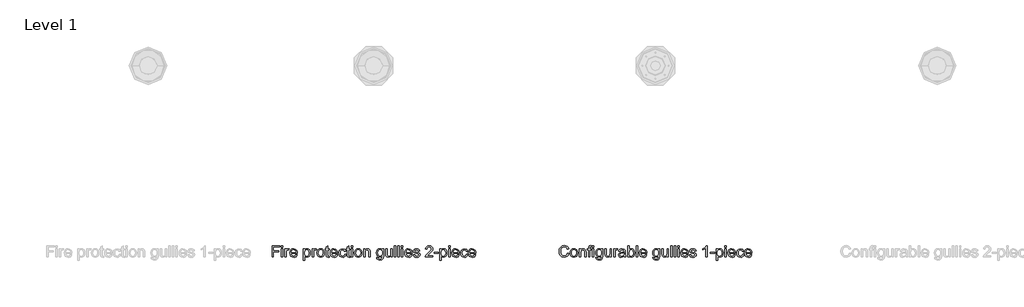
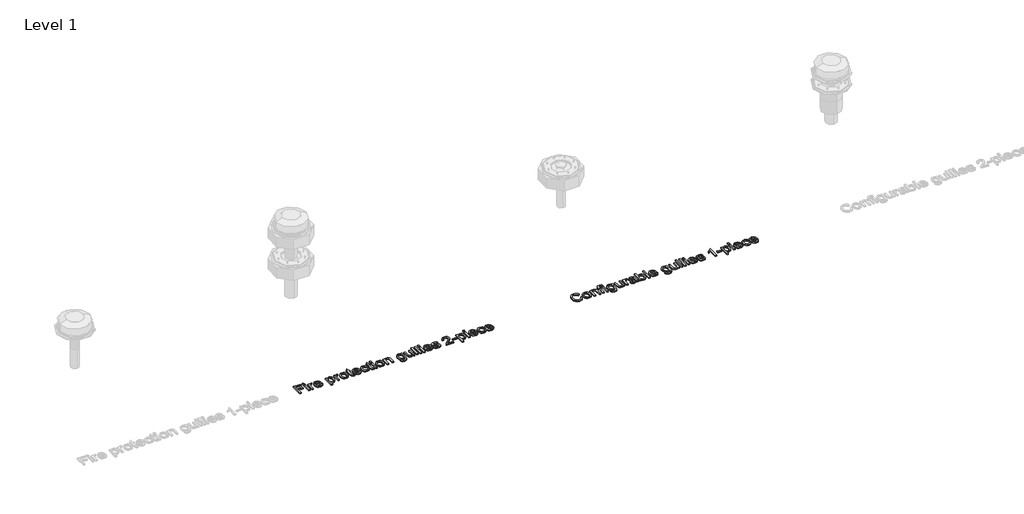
# One storey, part 3 of 4: 2 proxies.
"""IFC4 building model written with IfcOpenShell, lengths in millimetres."""

from ifc_helpers import new_model, si_unit, origin, origin_with_axes, place, context, project, spatial, polyline, outline, extrude, element, save

model = new_model("IFC4")

# Units and contexts
model_context = context("Model", 3, world=origin())
ifc_project = project(units=[si_unit("LENGTHUNIT", "METRE", prefix="MILLI")], contexts=[model_context])

# Site, building, storey
site = spatial("IfcSite", under=ifc_project)
building = spatial("IfcBuilding", under=site)
storey = spatial("IfcBuildingStorey", under=building, Name="Level 1", Elevation=0.0)

# Proxies
placement = place(None, origin())
element("IfcBuildingElementProxy", 1, Name="100mm ACO", ObjectType="100mm ACO", at=placement, inside=storey, context=model_context, shape_type="SweptSolid", body=[
    extrude(outline(polyline([(6665.7407407, -611.1111111), (6612.037037, -611.1111111), (6612.037037, -642.5925926), (6658.3333333, -642.5925926), (6658.3333333, -653.7037037), (6612.037037, -653.7037037), (6612.037037, -700.0), (6599.0740741, -700.0), (6599.0740741, -600.0), (6665.7407407, -600.0), (6665.7407407, -611.1111111)])), origin_with_axes(), (0.0, 0.0, 1.0), 10.0),
    extrude(outline(polyline([(6695.3703704, -700.0), (6682.4074074, -700.0), (6682.4074074, -627.7777778), (6695.3703704, -627.7777778), (6695.3703704, -700.0)])), origin_with_axes(), (0.0, 0.0, 1.0), 10.0),
    extrude(outline(polyline([(6695.3703704, -612.962963), (6682.4074074, -612.962963), (6682.4074074, -600.0), (6695.3703704, -600.0), (6695.3703704, -612.962963)])), origin_with_axes(), (0.0, 0.0, 1.0), 10.0),
    extrude(outline(polyline([(6752.7777778, -628.7615741), (6748.7268519, -637.037037), (6740.2199074, -635.1851852), (6734.4256366, -636.8127894), (6730.2372685, -641.6956019), (6726.8518519, -659.9247685), (6726.8518519, -700.0), (6713.8888889, -700.0), (6713.8888889, -627.7777778), (6725.0, -627.7777778), (6725.0, -638.4837963), (6731.9299769, -629.0653935), (6740.3645833, -625.9259259), (6752.7777778, -628.7615741)])), origin_with_axes(), (0.0, 0.0, 1.0), 10.0),
    extrude(outline(polyline([(6823.1481481, -666.6666667), (6769.4444444, -666.6666667), (6771.5169271, -677.7922454), (6776.2297454, -685.9375), (6783.0114294, -690.9288194), (6791.2905093, -692.5925926), (6802.9658565, -688.9033565), (6810.1851852, -677.7777778), (6823.1481481, -679.2824074), (6818.7717014, -688.9033565), (6811.8344907, -696.0069444), (6802.5896991, -700.390625), (6791.2905093, -701.8518519), (6776.703559, -699.3453414), (6765.697338, -691.8258102), (6758.7854456, -679.9660012), (6756.4814815, -664.4386574), (6758.7022569, -648.900463), (6765.3645833, -636.6030093), (6776.0633681, -628.5951968), (6790.3935185, -625.9259259), (6805.6134259, -629.3836806), (6818.041088, -641.1603009), (6821.8713831, -651.6963252), (6823.1481481, -666.6666667)]), holes=[polyline([(6810.1851852, -657.4074074), (6808.1018519, -647.2511574), (6803.3564815, -640.3935185), (6790.0752315, -635.1851852), (6782.2193287, -636.7332176), (6775.8969907, -641.3773148), (6769.4444444, -657.4074074), (6810.1851852, -657.4074074)])]), origin_with_axes(), (0.0, 0.0, 1.0), 10.0),
    extrude(outline(polyline([(6889.9450231, -636.4872685), (6898.401331, -628.5662616), (6910.0694444, -625.9259259), (6922.3958333, -628.515625), (6931.8287037, -636.2847222), (6937.818287, -648.2132523), (6939.8148148, -663.28125), (6937.5578704, -679.1702836), (6930.787037, -691.4207176), (6920.7320602, -699.2440683), (6908.6226852, -701.8518519), (6898.2494213, -699.7251157), (6890.162037, -693.3449074), (6889.8148148, -727.7777778), (6876.8518519, -727.7777778), (6876.8518519, -627.7777778), (6889.8148148, -627.7777778), (6889.9450231, -636.4872685)]), holes=[polyline([(6907.2048611, -692.5925926), (6914.9775752, -690.766059), (6921.2818287, -685.2864583), (6925.4593461, -676.1899595), (6926.8518519, -663.5127315), (6925.5099826, -651.4359086), (6921.484375, -642.5202546), (6915.3682002, -637.0189525), (6907.7546296, -635.1851852), (6899.8734086, -637.2287326), (6893.5329861, -643.359375), (6889.3554687, -652.7452257), (6887.962963, -664.5543981), (6889.2975984, -676.66739), (6893.3015046, -685.4600694), (6899.4466146, -690.8094618), (6907.2048611, -692.5925926)])]), origin_with_axes(), (0.0, 0.0, 1.0), 10.0),
    extrude(outline(polyline([(6993.5185185, -628.7615741), (6989.4675926, -637.037037), (6980.9606481, -635.1851852), (6975.1663773, -636.8127894), (6970.9780093, -641.6956019), (6967.5925926, -659.9247685), (6967.5925926, -700.0), (6954.6296296, -700.0), (6954.6296296, -627.7777778), (6965.7407407, -627.7777778), (6965.7407407, -638.4837963), (6972.6707176, -629.0653935), (6981.1053241, -625.9259259), (6993.5185185, -628.7615741)])), origin_with_axes(), (0.0, 0.0, 1.0), 10.0),
    extrude(outline(polyline([(7030.5266204, -625.9259259), (7043.7029803, -628.3203125), (7054.4126157, -635.5034722), (7061.5198206, -647.0992477), (7063.8888889, -662.7314815), (7061.3245081, -681.0040509), (7053.6313657, -692.9976852), (7042.7264178, -699.6383102), (7030.5266204, -701.8518519), (7017.9361979, -699.5768229), (7007.1325231, -692.7517361), (6999.6997975, -680.9859664), (6997.2222222, -663.8888889), (6999.6166088, -647.1715856), (7006.7997685, -635.3298611), (7017.5202546, -628.2769097), (7030.5266204, -625.9259259)]), holes=[polyline([(7030.5266204, -692.5925926), (7039.3337674, -690.5852141), (7045.7320602, -684.5630787), (7050.9259259, -663.4259259), (7049.4574653, -651.1429398), (7045.0520833, -642.3032407), (7038.4837963, -636.9646991), (7030.5266204, -635.1851852), (7022.4139178, -636.9900174), (7015.8998843, -642.4045139), (7011.61386, -651.3925058), (7010.1851852, -663.9178241), (7011.6391782, -676.3997396), (7016.0011574, -685.3732639), (7022.5405093, -690.7877604), (7030.5266204, -692.5925926)])]), origin_with_axes(), (0.0, 0.0, 1.0), 10.0),
    extrude(outline(polyline([(7106.4814815, -701.0127315), (7097.3958333, -701.8518519), (7085.8072917, -698.9728009), (7081.3657407, -691.6666667), (7080.5555556, -679.3402778), (7080.5555556, -637.037037), (7071.2962963, -637.037037), (7071.2962963, -627.7777778), (7080.5555556, -627.7777778), (7080.5555556, -609.4328704), (7093.5185185, -601.8518519), (7093.5185185, -627.7777778), (7104.6296296, -627.7777778), (7104.6296296, -637.037037), (7093.5185185, -637.037037), (7093.5185185, -681.9444444), (7094.5601852, -690.162037), (7099.8553241, -692.5925926), (7104.8900463, -692.5925926), (7106.4814815, -701.0127315)])), origin_with_axes(), (0.0, 0.0, 1.0), 10.0),
    extrude(outline(polyline([(7180.5555556, -666.6666667), (7126.8518519, -666.6666667), (7128.9243345, -677.7922454), (7133.6371528, -685.9375), (7140.4188368, -690.9288194), (7148.6979167, -692.5925926), (7160.3732639, -688.9033565), (7167.5925926, -677.7777778), (7180.5555556, -679.2824074), (7176.1791088, -688.9033565), (7169.2418981, -696.0069444), (7159.9971065, -700.390625), (7148.6979167, -701.8518519), (7134.1109664, -699.3453414), (7123.1047454, -691.8258102), (7116.192853, -679.9660012), (7113.8888889, -664.4386574), (7116.1096644, -648.900463), (7122.7719907, -636.6030093), (7133.4707755, -628.5951968), (7147.8009259, -625.9259259), (7163.0208333, -629.3836806), (7175.4484954, -641.1603009), (7179.2787905, -651.6963252), (7180.5555556, -666.6666667)]), holes=[polyline([(7167.5925926, -657.4074074), (7165.5092593, -647.2511574), (7160.7638889, -640.3935185), (7147.4826389, -635.1851852), (7139.6267361, -636.7332176), (7133.3043981, -641.3773148), (7126.8518519, -657.4074074), (7167.5925926, -657.4074074)])]), origin_with_axes(), (0.0, 0.0, 1.0), 10.0),
    extrude(outline(polyline([(7256.4814815, -675.5497685), (7252.4522569, -687.3553241), (7245.2835648, -695.5150463), (7235.9592014, -700.2676505), (7225.462963, -701.8518519), (7211.1472801, -699.2621528), (7200.4918981, -691.4930556), (7193.8729745, -679.4487847), (7191.6666667, -664.0335648), (7196.7013889, -641.3483796), (7209.302662, -629.3836806), (7225.2025463, -625.9259259), (7244.6614583, -631.5827546), (7251.1971933, -638.566985), (7254.6296296, -648.2060185), (7241.6666667, -650.0), (7235.7638889, -638.9033565), (7225.3472222, -635.1851852), (7216.3917824, -637.0695891), (7209.8958333, -642.7228009), (7205.9461806, -651.7541956), (7204.6296296, -663.7731481), (7205.9497975, -676.0018808), (7209.9103009, -685.083912), (7216.3592303, -690.7154225), (7225.1446759, -692.5925926), (7237.7459491, -687.962963), (7243.5185185, -674.0740741), (7256.4814815, -675.5497685)])), origin_with_axes(), (0.0, 0.0, 1.0), 10.0),
    extrude(outline(polyline([(7291.6666667, -701.0127315), (7282.5810185, -701.8518519), (7270.9924769, -698.9728009), (7266.5509259, -691.6666667), (7265.7407407, -679.3402778), (7265.7407407, -637.037037), (7256.4814815, -637.037037), (7256.4814815, -627.7777778), (7265.7407407, -627.7777778), (7265.7407407, -609.4328704), (7278.7037037, -601.8518519), (7278.7037037, -627.7777778), (7289.8148148, -627.7777778), (7289.8148148, -637.037037), (7278.7037037, -637.037037), (7278.7037037, -681.9444444), (7279.7453704, -690.162037), (7285.0405093, -692.5925926), (7290.0752315, -692.5925926), (7291.6666667, -701.0127315)])), origin_with_axes(), (0.0, 0.0, 1.0), 10.0),
    extrude(outline(polyline([(7315.7407407, -612.962963), (7302.7777778, -612.962963), (7302.7777778, -600.0), (7315.7407407, -600.0), (7315.7407407, -612.962963)])), origin_with_axes(), (0.0, 0.0, 1.0), 10.0),
    extrude(outline(polyline([(7315.7407407, -700.0), (7302.7777778, -700.0), (7302.7777778, -627.7777778), (7315.7407407, -627.7777778), (7315.7407407, -700.0)])), origin_with_axes(), (0.0, 0.0, 1.0), 10.0),
    extrude(outline(polyline([(7363.8599537, -625.9259259), (7377.0363137, -628.3203125), (7387.7459491, -635.5034722), (7394.8531539, -647.0992477), (7397.2222222, -662.7314815), (7394.6578414, -681.0040509), (7386.9646991, -692.9976852), (7376.0597512, -699.6383102), (7363.8599537, -701.8518519), (7351.2695312, -699.5768229), (7340.4658565, -692.7517361), (7333.0331308, -680.9859664), (7330.5555556, -663.8888889), (7332.9499421, -647.1715856), (7340.1331019, -635.3298611), (7350.853588, -628.2769097), (7363.8599537, -625.9259259)]), holes=[polyline([(7363.8599537, -692.5925926), (7372.6671007, -690.5852141), (7379.0653935, -684.5630787), (7384.2592593, -663.4259259), (7382.7907986, -651.1429398), (7378.3854167, -642.3032407), (7371.8171296, -636.9646991), (7363.8599537, -635.1851852), (7355.7472512, -636.9900174), (7349.2332176, -642.4045139), (7344.9471933, -651.3925058), (7343.5185185, -663.9178241), (7344.9725116, -676.3997396), (7349.3344907, -685.3732639), (7355.8738426, -690.7877604), (7363.8599537, -692.5925926)])]), origin_with_axes(), (0.0, 0.0, 1.0), 10.0),
    extrude(outline(polyline([(7471.2962963, -700.0), (7458.3333333, -700.0), (7458.3333333, -655.0347222), (7454.4704861, -639.4386574), (7443.7210648, -635.1851852), (7433.6950231, -637.9050926), (7426.9820602, -645.5729167), (7425.0, -659.5775463), (7425.0, -700.0), (7412.037037, -700.0), (7412.037037, -627.7777778), (7423.1481481, -627.7777778), (7423.1481481, -637.818287), (7433.0439815, -628.8917824), (7446.2962963, -625.9259259), (7457.6678241, -627.9803241), (7466.4641204, -634.1290509), (7470.4716435, -642.8674769), (7471.2962963, -655.4108796), (7471.2962963, -700.0)])), origin_with_axes(), (0.0, 0.0, 1.0), 10.0),
    extrude(outline(polyline([(7587.962963, -689.3518519), (7584.9103009, -711.9936343), (7574.0451389, -723.6255787), (7555.3819444, -727.7777778), (7544.1659433, -726.3708044), (7534.9971065, -722.1498843), (7528.8881655, -714.7243924), (7526.8518519, -703.7037037), (7539.8148148, -705.7581019), (7544.3865741, -715.3211806), (7555.5844907, -718.5185185), (7568.8946759, -714.8292824), (7574.0596065, -705.8449074), (7575.0, -691.2326389), (7566.2254051, -697.8081597), (7555.4108796, -700.0), (7543.0193866, -697.3885995), (7533.3333333, -689.5543981), (7527.0833333, -677.7416088), (7525.0, -663.1944444), (7526.9820602, -648.5532407), (7532.9282407, -636.5740741), (7542.3755787, -628.587963), (7554.8611111, -625.9259259), (7565.9360532, -628.3058449), (7574.7395833, -635.4456019), (7575.0, -627.7777778), (7587.962963, -627.7777778), (7587.962963, -689.3518519)]), holes=[polyline([(7557.349537, -690.7407407), (7564.5616319, -689.134838), (7570.9201389, -684.3171296), (7575.3689236, -675.7233796), (7576.8518519, -662.7893519), (7575.4376447, -651.0018808), (7571.1950231, -642.3177083), (7564.8690683, -636.968316), (7557.2048611, -635.1851852), (7549.4827836, -637.0117187), (7543.3304398, -642.4913194), (7539.3048322, -651.1465567), (7537.962963, -662.5), (7539.3699363, -675.2170139), (7543.5908565, -683.9699074), (7549.8444734, -689.0480324), (7557.349537, -690.7407407)])]), origin_with_axes(), (0.0, 0.0, 1.0), 10.0),
    extrude(outline(polyline([(7665.7407407, -700.0), (7654.6296296, -700.0), (7654.6296296, -689.4965278), (7644.3865741, -698.7630208), (7631.4236111, -701.8518519), (7617.3032407, -698.3362269), (7608.6516204, -688.6574074), (7606.4814815, -672.65625), (7606.4814815, -627.7777778), (7619.4444444, -627.7777778), (7619.4444444, -668.75), (7620.3414352, -682.8414352), (7625.0289352, -689.84375), (7634.056713, -692.5925926), (7646.802662, -687.6736111), (7651.2839988, -680.1215278), (7652.7777778, -667.3032407), (7652.7777778, -627.7777778), (7665.7407407, -627.7777778), (7665.7407407, -700.0)])), origin_with_axes(), (0.0, 0.0, 1.0), 10.0),
    extrude(outline(polyline([(7697.2222222, -700.0), (7684.2592593, -700.0), (7684.2592593, -600.0), (7697.2222222, -600.0), (7697.2222222, -700.0)])), origin_with_axes(), (0.0, 0.0, 1.0), 10.0),
    extrude(outline(polyline([(7728.7037037, -700.0), (7715.7407407, -700.0), (7715.7407407, -600.0), (7728.7037037, -600.0), (7728.7037037, -700.0)])), origin_with_axes(), (0.0, 0.0, 1.0), 10.0),
    extrude(outline(polyline([(7760.1851852, -612.962963), (7747.2222222, -612.962963), (7747.2222222, -600.0), (7760.1851852, -600.0), (7760.1851852, -612.962963)])), origin_with_axes(), (0.0, 0.0, 1.0), 10.0),
    extrude(outline(polyline([(7760.1851852, -700.0), (7747.2222222, -700.0), (7747.2222222, -627.7777778), (7760.1851852, -627.7777778), (7760.1851852, -700.0)])), origin_with_axes(), (0.0, 0.0, 1.0), 10.0),
    extrude(outline(polyline([(7841.6666667, -666.6666667), (7787.962963, -666.6666667), (7790.0354456, -677.7922454), (7794.7482639, -685.9375), (7801.5299479, -690.9288194), (7809.8090278, -692.5925926), (7821.484375, -688.9033565), (7828.7037037, -677.7777778), (7841.6666667, -679.2824074), (7837.2902199, -688.9033565), (7830.3530093, -696.0069444), (7821.1082176, -700.390625), (7809.8090278, -701.8518519), (7795.2220775, -699.3453414), (7784.2158565, -691.8258102), (7777.3039641, -679.9660012), (7775.0, -664.4386574), (7777.2207755, -648.900463), (7783.8831019, -636.6030093), (7794.5818866, -628.5951968), (7808.912037, -625.9259259), (7824.1319444, -629.3836806), (7836.5596065, -641.1603009), (7840.3899016, -651.6963252), (7841.6666667, -666.6666667)]), holes=[polyline([(7828.7037037, -657.4074074), (7826.6203704, -647.2511574), (7821.875, -640.3935185), (7808.59375, -635.1851852), (7800.7378472, -636.7332176), (7794.4155093, -641.3773148), (7787.962963, -657.4074074), (7828.7037037, -657.4074074)])]), origin_with_axes(), (0.0, 0.0, 1.0), 10.0),
    extrude(outline(polyline([(7897.2222222, -648.1481481), (7892.4334491, -638.4259259), (7881.3657407, -635.1851852), (7870.0520833, -637.962963), (7865.7407407, -646.0358796), (7868.5908565, -653.1828704), (7882.03125, -657.0601852), (7899.7540509, -661.2268519), (7908.7962963, -667.5491898), (7912.037037, -678.8773148), (7910.0260417, -687.8074363), (7903.9930556, -695.2112269), (7894.5963542, -700.1916956), (7882.494213, -701.8518519), (7870.0195312, -700.4557292), (7860.6047454, -696.2673611), (7854.2426215, -689.2939815), (7850.9259259, -679.5428241), (7863.8888889, -677.7777778), (7869.4878472, -688.9033565), (7882.494213, -692.5925926), (7894.7916667, -688.7586806), (7899.0740741, -679.4270833), (7897.1498843, -673.4519676), (7892.3466435, -670.0810185), (7878.7615741, -667.1875), (7857.8269676, -659.375), (7852.7777778, -646.7881944), (7854.6477141, -638.5018808), (7860.2575231, -631.8142361), (7869.0285012, -627.3980035), (7880.3819444, -625.9259259), (7892.3140914, -627.2135417), (7901.2586806, -631.0763889), (7907.2157118, -637.5072338), (7910.1851852, -646.4988426), (7897.2222222, -648.1481481)])), origin_with_axes(), (0.0, 0.0, 1.0), 10.0),
    extrude(outline(polyline([(8025.0, -700.0), (7958.3333333, -700.0), (7964.2939815, -684.4039352), (7986.3136574, -662.7893519), (8004.0798611, -645.4571759), (8010.0477431, -636.4293981), (8012.037037, -627.34375), (8006.6116898, -614.380787), (7992.9108796, -609.2592593), (7978.8773148, -614.3663194), (7974.609375, -620.7356771), (7973.1481481, -629.6296296), (7960.1851852, -628.2407407), (7963.3246528, -616.1385995), (7970.3703704, -607.2627315), (7980.5844907, -601.8156829), (7993.2291667, -600.0), (8006.5863715, -602.0869502), (8016.6232639, -608.3478009), (8022.905816, -617.5600405), (8025.0, -628.5011574), (8023.2494213, -638.4042245), (8017.9976852, -648.4375), (7990.5671296, -675.9548611), (7975.0, -690.7407407), (8025.0, -690.7407407), (8025.0, -700.0)])), origin_with_axes(), (0.0, 0.0, 1.0), 10.0),
    extrude(outline(polyline([(8075.0, -666.6666667), (8036.1111111, -666.6666667), (8036.1111111, -657.4074074), (8075.0, -657.4074074), (8075.0, -666.6666667)])), origin_with_axes(), (0.0, 0.0, 1.0), 10.0),
    extrude(outline(polyline([(8101.0561343, -636.4872685), (8109.5124421, -628.5662616), (8121.1805556, -625.9259259), (8133.5069444, -628.515625), (8142.9398148, -636.2847222), (8148.9293981, -648.2132523), (8150.9259259, -663.28125), (8148.6689815, -679.1702836), (8141.8981481, -691.4207176), (8131.8431713, -699.2440683), (8119.7337963, -701.8518519), (8109.3605324, -699.7251157), (8101.2731481, -693.3449074), (8100.9259259, -727.7777778), (8087.962963, -727.7777778), (8087.962963, -627.7777778), (8100.9259259, -627.7777778), (8101.0561343, -636.4872685)]), holes=[polyline([(8118.3159722, -692.5925926), (8126.0886863, -690.766059), (8132.3929398, -685.2864583), (8136.5704572, -676.1899595), (8137.962963, -663.5127315), (8136.6210937, -651.4359086), (8132.5954861, -642.5202546), (8126.4793113, -637.0189525), (8118.8657407, -635.1851852), (8110.9845197, -637.2287326), (8104.6440972, -643.359375), (8100.4665799, -652.7452257), (8099.0740741, -664.5543981), (8100.4087095, -676.66739), (8104.4126157, -685.4600694), (8110.5577257, -690.8094618), (8118.3159722, -692.5925926)])]), origin_with_axes(), (0.0, 0.0, 1.0), 10.0),
    extrude(outline(polyline([(8178.7037037, -612.962963), (8165.7407407, -612.962963), (8165.7407407, -600.0), (8178.7037037, -600.0), (8178.7037037, -612.962963)])), origin_with_axes(), (0.0, 0.0, 1.0), 10.0),
    extrude(outline(polyline([(8178.7037037, -700.0), (8165.7407407, -700.0), (8165.7407407, -627.7777778), (8178.7037037, -627.7777778), (8178.7037037, -700.0)])), origin_with_axes(), (0.0, 0.0, 1.0), 10.0),
    extrude(outline(polyline([(8260.1851852, -666.6666667), (8206.4814815, -666.6666667), (8208.5539641, -677.7922454), (8213.2667824, -685.9375), (8220.0484664, -690.9288194), (8228.3275463, -692.5925926), (8240.0028935, -688.9033565), (8247.2222222, -677.7777778), (8260.1851852, -679.2824074), (8255.8087384, -688.9033565), (8248.8715278, -696.0069444), (8239.6267361, -700.390625), (8228.3275463, -701.8518519), (8213.7405961, -699.3453414), (8202.734375, -691.8258102), (8195.8224826, -679.9660012), (8193.5185185, -664.4386574), (8195.739294, -648.900463), (8202.4016204, -636.6030093), (8213.1004051, -628.5951968), (8227.4305556, -625.9259259), (8242.650463, -629.3836806), (8255.078125, -641.1603009), (8258.9084201, -651.6963252), (8260.1851852, -666.6666667)]), holes=[polyline([(8247.2222222, -657.4074074), (8245.1388889, -647.2511574), (8240.3935185, -640.3935185), (8227.1122685, -635.1851852), (8219.2563657, -636.7332176), (8212.9340278, -641.3773148), (8206.4814815, -657.4074074), (8247.2222222, -657.4074074)])]), origin_with_axes(), (0.0, 0.0, 1.0), 10.0),
    extrude(outline(polyline([(8336.1111111, -675.5497685), (8332.0818866, -687.3553241), (8324.9131944, -695.5150463), (8315.588831, -700.2676505), (8305.0925926, -701.8518519), (8290.7769097, -699.2621528), (8280.1215278, -691.4930556), (8273.5026042, -679.4487847), (8271.2962963, -664.0335648), (8276.3310185, -641.3483796), (8288.9322917, -629.3836806), (8304.8321759, -625.9259259), (8324.291088, -631.5827546), (8330.8268229, -638.566985), (8334.2592593, -648.2060185), (8321.2962963, -650.0), (8315.3935185, -638.9033565), (8304.9768519, -635.1851852), (8296.021412, -637.0695891), (8289.525463, -642.7228009), (8285.5758102, -651.7541956), (8284.2592593, -663.7731481), (8285.5794271, -676.0018808), (8289.5399306, -685.083912), (8295.98886, -690.7154225), (8304.7743056, -692.5925926), (8317.3755787, -687.962963), (8323.1481481, -674.0740741), (8336.1111111, -675.5497685)])), origin_with_axes(), (0.0, 0.0, 1.0), 10.0),
    extrude(outline(polyline([(8406.4814815, -666.6666667), (8352.7777778, -666.6666667), (8354.8502604, -677.7922454), (8359.5630787, -685.9375), (8366.3447627, -690.9288194), (8374.6238426, -692.5925926), (8386.2991898, -688.9033565), (8393.5185185, -677.7777778), (8406.4814815, -679.2824074), (8402.1050347, -688.9033565), (8395.1678241, -696.0069444), (8385.9230324, -700.390625), (8374.6238426, -701.8518519), (8360.0368924, -699.3453414), (8349.0306713, -691.8258102), (8342.1187789, -679.9660012), (8339.8148148, -664.4386574), (8342.0355903, -648.900463), (8348.6979167, -636.6030093), (8359.3967014, -628.5951968), (8373.7268519, -625.9259259), (8388.9467593, -629.3836806), (8401.3744213, -641.1603009), (8405.2047164, -651.6963252), (8406.4814815, -666.6666667)]), holes=[polyline([(8393.5185185, -657.4074074), (8391.4351852, -647.2511574), (8386.6898148, -640.3935185), (8373.4085648, -635.1851852), (8365.552662, -636.7332176), (8359.2303241, -641.3773148), (8352.7777778, -657.4074074), (8393.5185185, -657.4074074)])]), origin_with_axes(), (0.0, 0.0, 1.0), 10.0),
])
element("IfcBuildingElementProxy", 2, Name="100mm ACO", ObjectType="100mm ACO", at=placement, inside=storey, context=model_context, shape_type="SweptSolid", body=[
    extrude(outline(polyline([(9232.4074074, -668.1712963), (9226.4937789, -682.9969618), (9217.3755787, -693.5040509), (9205.5881076, -699.7649016), (9191.6666667, -701.8518519), (9170.7609954, -697.9962384), (9156.4236111, -686.4293981), (9148.1336806, -669.4372106), (9145.3703704, -649.3055556), (9148.614728, -627.9188368), (9158.3478009, -611.7332176), (9173.1807002, -601.5444155), (9191.724537, -598.1481481), (9205.0383391, -599.9602141), (9216.2760417, -605.396412), (9224.9457465, -614.3265336), (9230.5555556, -626.6203704), (9217.5925926, -629.6296296), (9207.740162, -614.3663194), (9191.2326389, -609.2592593), (9177.0109954, -611.968316), (9166.6956019, -620.0954861), (9160.4239005, -632.7799479), (9158.3333333, -649.1608796), (9160.546875, -667.5238715), (9167.1875, -680.4832176), (9177.3871528, -688.17636), (9190.2777778, -690.7407407), (9200.8463542, -689.1239873), (9209.2303241, -684.2737269), (9215.4296875, -676.1754919), (9219.4444444, -664.8148148), (9232.4074074, -668.1712963)])), origin_with_axes(), (0.0, 0.0, 1.0), 10.0),
    extrude(outline(polyline([(9276.8229167, -625.9259259), (9289.9992766, -628.3203125), (9300.708912, -635.5034722), (9307.8161169, -647.0992477), (9310.1851852, -662.7314815), (9307.6208044, -681.0040509), (9299.927662, -692.9976852), (9289.0227141, -699.6383102), (9276.8229167, -701.8518519), (9264.2324942, -699.5768229), (9253.4288194, -692.7517361), (9245.9960937, -680.9859664), (9243.5185185, -663.8888889), (9245.9129051, -647.1715856), (9253.0960648, -635.3298611), (9263.8165509, -628.2769097), (9276.8229167, -625.9259259)]), holes=[polyline([(9276.8229167, -692.5925926), (9285.6300637, -690.5852141), (9292.0283565, -684.5630787), (9297.2222222, -663.4259259), (9295.7537616, -651.1429398), (9291.3483796, -642.3032407), (9284.7800926, -636.9646991), (9276.8229167, -635.1851852), (9268.7102141, -636.9900174), (9262.1961806, -642.4045139), (9257.9101562, -651.3925058), (9256.4814815, -663.9178241), (9257.9354745, -676.3997396), (9262.2974537, -685.3732639), (9268.8368056, -690.7877604), (9276.8229167, -692.5925926)])]), origin_with_axes(), (0.0, 0.0, 1.0), 10.0),
    extrude(outline(polyline([(9384.2592593, -700.0), (9371.2962963, -700.0), (9371.2962963, -655.0347222), (9367.4334491, -639.4386574), (9356.6840278, -635.1851852), (9346.6579861, -637.9050926), (9339.9450231, -645.5729167), (9337.962963, -659.5775463), (9337.962963, -700.0), (9325.0, -700.0), (9325.0, -627.7777778), (9336.1111111, -627.7777778), (9336.1111111, -637.818287), (9346.0069444, -628.8917824), (9359.2592593, -625.9259259), (9370.630787, -627.9803241), (9379.4270833, -634.1290509), (9383.4346065, -642.8674769), (9384.2592593, -655.4108796), (9384.2592593, -700.0)])), origin_with_axes(), (0.0, 0.0, 1.0), 10.0),
    extrude(outline(polyline([(9436.1111111, -599.1030093), (9434.5196759, -607.4074074), (9428.2118056, -607.4074074), (9421.9039352, -609.5341435), (9419.4444444, -620.0520833), (9419.4444444, -627.7777778), (9430.5555556, -627.7777778), (9430.5555556, -637.037037), (9419.4444444, -637.037037), (9419.4444444, -700.0), (9406.4814815, -700.0), (9406.4814815, -637.037037), (9395.3703704, -637.037037), (9395.3703704, -627.7777778), (9406.4814815, -627.7777778), (9406.4814815, -619.849537), (9407.4508102, -609.8668981), (9412.5578704, -601.7650463), (9425.318287, -598.1481481), (9436.1111111, -599.1030093)])), origin_with_axes(), (0.0, 0.0, 1.0), 10.0),
    extrude(outline(polyline([(9454.6296296, -700.0), (9441.6666667, -700.0), (9441.6666667, -627.7777778), (9454.6296296, -627.7777778), (9454.6296296, -700.0)])), origin_with_axes(), (0.0, 0.0, 1.0), 10.0),
    extrude(outline(polyline([(9454.6296296, -612.962963), (9441.6666667, -612.962963), (9441.6666667, -600.0), (9454.6296296, -600.0), (9454.6296296, -612.962963)])), origin_with_axes(), (0.0, 0.0, 1.0), 10.0),
    extrude(outline(polyline([(9532.4074074, -689.3518519), (9529.3547454, -711.9936343), (9518.4895833, -723.6255787), (9499.8263889, -727.7777778), (9488.6103877, -726.3708044), (9479.4415509, -722.1498843), (9473.33261, -714.7243924), (9471.2962963, -703.7037037), (9484.2592593, -705.7581019), (9488.8310185, -715.3211806), (9500.0289352, -718.5185185), (9513.3391204, -714.8292824), (9518.5040509, -705.8449074), (9519.4444444, -691.2326389), (9510.6698495, -697.8081597), (9499.8553241, -700.0), (9487.463831, -697.3885995), (9477.7777778, -689.5543981), (9471.5277778, -677.7416088), (9469.4444444, -663.1944444), (9471.4265046, -648.5532407), (9477.3726852, -636.5740741), (9486.8200231, -628.587963), (9499.3055556, -625.9259259), (9510.3804977, -628.3058449), (9519.1840278, -635.4456019), (9519.4444444, -627.7777778), (9532.4074074, -627.7777778), (9532.4074074, -689.3518519)]), holes=[polyline([(9501.7939815, -690.7407407), (9509.0060764, -689.134838), (9515.3645833, -684.3171296), (9519.8133681, -675.7233796), (9521.2962963, -662.7893519), (9519.8820891, -651.0018808), (9515.6394676, -642.3177083), (9509.3135127, -636.968316), (9501.6493056, -635.1851852), (9493.927228, -637.0117188), (9487.7748843, -642.4913194), (9483.7492766, -651.1465567), (9482.4074074, -662.5), (9483.8143808, -675.2170139), (9488.0353009, -683.9699074), (9494.2889178, -689.0480324), (9501.7939815, -690.7407407)])]), origin_with_axes(), (0.0, 0.0, 1.0), 10.0),
    extrude(outline(polyline([(9610.1851852, -700.0), (9599.0740741, -700.0), (9599.0740741, -689.4965278), (9588.8310185, -698.7630208), (9575.8680556, -701.8518519), (9561.7476852, -698.3362269), (9553.0960648, -688.6574074), (9550.9259259, -672.65625), (9550.9259259, -627.7777778), (9563.8888889, -627.7777778), (9563.8888889, -668.75), (9564.7858796, -682.8414352), (9569.4733796, -689.84375), (9578.5011574, -692.5925926), (9591.2471065, -687.6736111), (9595.7284433, -680.1215278), (9597.2222222, -667.3032407), (9597.2222222, -627.7777778), (9610.1851852, -627.7777778), (9610.1851852, -700.0)])), origin_with_axes(), (0.0, 0.0, 1.0), 10.0),
    extrude(outline(polyline([(9667.5925926, -628.7615741), (9663.5416667, -637.037037), (9655.0347222, -635.1851852), (9649.2404514, -636.8127894), (9645.0520833, -641.6956019), (9641.6666667, -659.9247685), (9641.6666667, -700.0), (9628.7037037, -700.0), (9628.7037037, -627.7777778), (9639.8148148, -627.7777778), (9639.8148148, -638.4837963), (9646.7447917, -629.0653935), (9655.1793981, -625.9259259), (9667.5925926, -628.7615741)])), origin_with_axes(), (0.0, 0.0, 1.0), 10.0),
    extrude(outline(polyline([(9737.962963, -700.0), (9725.0, -700.0), (9721.2962963, -691.2615741), (9708.8035301, -699.2042824), (9695.3414352, -701.8518519), (9685.3551794, -700.4050926), (9677.734375, -696.0648148), (9672.905816, -689.3518519), (9671.2962963, -680.787037), (9672.8732639, -672.479022), (9677.6041667, -665.7841435), (9686.2340856, -660.8904803), (9699.5081019, -657.9861111), (9710.8506944, -656.25), (9721.2962963, -653.7037037), (9720.9635417, -645.6741898), (9719.0248843, -640.7986111), (9713.8599537, -636.7332176), (9704.2824074, -635.1851852), (9692.2019676, -638.3246528), (9686.1111111, -650.0), (9673.1481481, -648.4085648), (9676.703559, -638.599537), (9683.3767361, -631.568287), (9693.1604456, -627.3365162), (9706.0474537, -625.9259259), (9725.3038194, -629.7887731), (9732.8559028, -639.1059028), (9734.2592593, -653.1539352), (9734.2592593, -669.6759259), (9734.8090278, -689.9305556), (9737.962963, -700.0)]), holes=[polyline([(9721.2962963, -667.5925926), (9721.2962963, -662.962963), (9698.0179398, -668.287037), (9687.6989294, -672.3451968), (9684.2592593, -680.5844907), (9687.962963, -689.2071759), (9698.6400463, -692.5925926), (9714.453125, -686.9212963), (9719.5855035, -679.2534722), (9721.2962963, -667.5925926)])]), origin_with_axes(), (0.0, 0.0, 1.0), 10.0),
    extrude(outline(polyline([(9765.9143519, -634.9247685), (9774.2766204, -628.1756366), (9785.3587963, -625.9259259), (9797.7828414, -628.4722222), (9807.4508102, -636.1111111), (9813.6682581, -647.8587963), (9815.7407407, -662.7314815), (9813.4620949, -679.4668692), (9806.6261574, -691.7679398), (9796.7375579, -699.3308738), (9785.3009259, -701.8518519), (9774.2838542, -699.3778935), (9766.0011574, -691.9560185), (9765.7407407, -700.0), (9752.7777778, -700.0), (9752.7777778, -600.0), (9765.7407407, -600.0), (9765.9143519, -634.9247685)]), holes=[polyline([(9784.0856481, -692.5925926), (9791.5039062, -690.7009549), (9797.4971065, -685.0260417), (9801.45761, -675.9295428), (9802.7777778, -663.7731481), (9797.9166667, -642.896412), (9792.1296296, -637.1129919), (9784.4907407, -635.1851852), (9776.8663194, -637.1744792), (9770.8912037, -643.1423611), (9765.7407407, -663.28125), (9767.8819444, -680.2372685), (9774.3344907, -688.9322917), (9784.0856481, -692.5925926)])]), origin_with_axes(), (0.0, 0.0, 1.0), 10.0),
    extrude(outline(polyline([(9843.5185185, -700.0), (9830.5555556, -700.0), (9830.5555556, -600.0), (9843.5185185, -600.0), (9843.5185185, -700.0)])), origin_with_axes(), (0.0, 0.0, 1.0), 10.0),
    extrude(outline(polyline([(9925.0, -666.6666667), (9871.2962963, -666.6666667), (9873.3687789, -677.7922454), (9878.0815972, -685.9375), (9884.8632812, -690.9288194), (9893.1423611, -692.5925926), (9904.8177083, -688.9033565), (9912.037037, -677.7777778), (9925.0, -679.2824074), (9920.6235532, -688.9033565), (9913.6863426, -696.0069444), (9904.4415509, -700.390625), (9893.1423611, -701.8518519), (9878.5554109, -699.3453414), (9867.5491898, -691.8258102), (9860.6372975, -679.9660012), (9858.3333333, -664.4386574), (9860.5541088, -648.900463), (9867.2164352, -636.6030093), (9877.9152199, -628.5951968), (9892.2453704, -625.9259259), (9907.4652778, -629.3836806), (9919.8929398, -641.1603009), (9923.723235, -651.6963252), (9925.0, -666.6666667)]), holes=[polyline([(9912.037037, -657.4074074), (9909.9537037, -647.2511574), (9905.2083333, -640.3935185), (9891.9270833, -635.1851852), (9884.0711806, -636.7332176), (9877.7488426, -641.3773148), (9871.2962963, -657.4074074), (9912.037037, -657.4074074)])]), origin_with_axes(), (0.0, 0.0, 1.0), 10.0),
    extrude(outline(polyline([(10037.962963, -689.3518519), (10034.9103009, -711.9936343), (10024.0451389, -723.6255787), (10005.3819444, -727.7777778), (9994.1659433, -726.3708044), (9984.9971065, -722.1498843), (9978.8881655, -714.7243924), (9976.8518519, -703.7037037), (9989.8148148, -705.7581019), (9994.3865741, -715.3211806), (10005.5844907, -718.5185185), (10018.8946759, -714.8292824), (10024.0596065, -705.8449074), (10025.0, -691.2326389), (10016.2254051, -697.8081597), (10005.4108796, -700.0), (9993.0193866, -697.3885995), (9983.3333333, -689.5543981), (9977.0833333, -677.7416088), (9975.0, -663.1944444), (9976.9820602, -648.5532407), (9982.9282407, -636.5740741), (9992.3755787, -628.587963), (10004.8611111, -625.9259259), (10015.9360532, -628.3058449), (10024.7395833, -635.4456019), (10025.0, -627.7777778), (10037.962963, -627.7777778), (10037.962963, -689.3518519)]), holes=[polyline([(10007.349537, -690.7407407), (10014.5616319, -689.134838), (10020.9201389, -684.3171296), (10025.3689236, -675.7233796), (10026.8518519, -662.7893519), (10025.4376447, -651.0018808), (10021.1950231, -642.3177083), (10014.8690683, -636.968316), (10007.2048611, -635.1851852), (9999.4827836, -637.0117188), (9993.3304398, -642.4913194), (9989.3048322, -651.1465567), (9987.962963, -662.5), (9989.3699363, -675.2170139), (9993.5908565, -683.9699074), (9999.8444734, -689.0480324), (10007.349537, -690.7407407)])]), origin_with_axes(), (0.0, 0.0, 1.0), 10.0),
    extrude(outline(polyline([(10115.7407407, -700.0), (10104.6296296, -700.0), (10104.6296296, -689.4965278), (10094.3865741, -698.7630208), (10081.4236111, -701.8518519), (10067.3032407, -698.3362269), (10058.6516204, -688.6574074), (10056.4814815, -672.65625), (10056.4814815, -627.7777778), (10069.4444444, -627.7777778), (10069.4444444, -668.75), (10070.3414352, -682.8414352), (10075.0289352, -689.84375), (10084.056713, -692.5925926), (10096.802662, -687.6736111), (10101.2839988, -680.1215278), (10102.7777778, -667.3032407), (10102.7777778, -627.7777778), (10115.7407407, -627.7777778), (10115.7407407, -700.0)])), origin_with_axes(), (0.0, 0.0, 1.0), 10.0),
    extrude(outline(polyline([(10147.2222222, -700.0), (10134.2592593, -700.0), (10134.2592593, -600.0), (10147.2222222, -600.0), (10147.2222222, -700.0)])), origin_with_axes(), (0.0, 0.0, 1.0), 10.0),
    extrude(outline(polyline([(10178.7037037, -700.0), (10165.7407407, -700.0), (10165.7407407, -600.0), (10178.7037037, -600.0), (10178.7037037, -700.0)])), origin_with_axes(), (0.0, 0.0, 1.0), 10.0),
    extrude(outline(polyline([(10210.1851852, -700.0), (10197.2222222, -700.0), (10197.2222222, -627.7777778), (10210.1851852, -627.7777778), (10210.1851852, -700.0)])), origin_with_axes(), (0.0, 0.0, 1.0), 10.0),
    extrude(outline(polyline([(10210.1851852, -612.962963), (10197.2222222, -612.962963), (10197.2222222, -600.0), (10210.1851852, -600.0), (10210.1851852, -612.962963)])), origin_with_axes(), (0.0, 0.0, 1.0), 10.0),
    extrude(outline(polyline([(10291.6666667, -666.6666667), (10237.962963, -666.6666667), (10240.0354456, -677.7922454), (10244.7482639, -685.9375), (10251.5299479, -690.9288194), (10259.8090278, -692.5925926), (10271.484375, -688.9033565), (10278.7037037, -677.7777778), (10291.6666667, -679.2824074), (10287.2902199, -688.9033565), (10280.3530093, -696.0069444), (10271.1082176, -700.390625), (10259.8090278, -701.8518519), (10245.2220775, -699.3453414), (10234.2158565, -691.8258102), (10227.3039641, -679.9660012), (10225.0, -664.4386574), (10227.2207755, -648.900463), (10233.8831019, -636.6030093), (10244.5818866, -628.5951968), (10258.912037, -625.9259259), (10274.1319444, -629.3836806), (10286.5596065, -641.1603009), (10290.3899016, -651.6963252), (10291.6666667, -666.6666667)]), holes=[polyline([(10278.7037037, -657.4074074), (10276.6203704, -647.2511574), (10271.875, -640.3935185), (10258.59375, -635.1851852), (10250.7378472, -636.7332176), (10244.4155093, -641.3773148), (10237.962963, -657.4074074), (10278.7037037, -657.4074074)])]), origin_with_axes(), (0.0, 0.0, 1.0), 10.0),
    extrude(outline(polyline([(10347.2222222, -648.1481481), (10342.4334491, -638.4259259), (10331.3657407, -635.1851852), (10320.0520833, -637.962963), (10315.7407407, -646.0358796), (10318.5908565, -653.1828704), (10332.03125, -657.0601852), (10349.7540509, -661.2268519), (10358.7962963, -667.5491898), (10362.037037, -678.8773148), (10360.0260417, -687.8074363), (10353.9930556, -695.2112269), (10344.5963542, -700.1916956), (10332.494213, -701.8518519), (10320.0195312, -700.4557292), (10310.6047454, -696.2673611), (10304.2426215, -689.2939815), (10300.9259259, -679.5428241), (10313.8888889, -677.7777778), (10319.4878472, -688.9033565), (10332.494213, -692.5925926), (10344.7916667, -688.7586806), (10349.0740741, -679.4270833), (10347.1498843, -673.4519676), (10342.3466435, -670.0810185), (10328.7615741, -667.1875), (10307.8269676, -659.375), (10302.7777778, -646.7881944), (10304.6477141, -638.5018808), (10310.2575231, -631.8142361), (10319.0285012, -627.3980035), (10330.3819444, -625.9259259), (10342.3140914, -627.2135417), (10351.2586806, -631.0763889), (10357.2157118, -637.5072338), (10360.1851852, -646.4988426), (10347.2222222, -648.1481481)])), origin_with_axes(), (0.0, 0.0, 1.0), 10.0),
    extrude(outline(polyline([(10458.3333333, -700.0), (10445.3703704, -700.0), (10445.3703704, -622.2222222), (10421.2962963, -637.037037), (10421.2962963, -627.7777778), (10439.5688657, -616.0590278), (10450.9259259, -601.8518519), (10458.3333333, -601.8518519), (10458.3333333, -700.0)])), origin_with_axes(), (0.0, 0.0, 1.0), 10.0),
    extrude(outline(polyline([(10525.0, -666.6666667), (10486.1111111, -666.6666667), (10486.1111111, -657.4074074), (10525.0, -657.4074074), (10525.0, -666.6666667)])), origin_with_axes(), (0.0, 0.0, 1.0), 10.0),
    extrude(outline(polyline([(10551.0561343, -636.4872685), (10559.5124421, -628.5662616), (10571.1805556, -625.9259259), (10583.5069444, -628.515625), (10592.9398148, -636.2847222), (10598.9293981, -648.2132523), (10600.9259259, -663.28125), (10598.6689815, -679.1702836), (10591.8981481, -691.4207176), (10581.8431713, -699.2440683), (10569.7337963, -701.8518519), (10559.3605324, -699.7251157), (10551.2731481, -693.3449074), (10550.9259259, -727.7777778), (10537.962963, -727.7777778), (10537.962963, -627.7777778), (10550.9259259, -627.7777778), (10551.0561343, -636.4872685)]), holes=[polyline([(10568.3159722, -692.5925926), (10576.0886863, -690.766059), (10582.3929398, -685.2864583), (10586.5704572, -676.1899595), (10587.962963, -663.5127315), (10586.6210937, -651.4359086), (10582.5954861, -642.5202546), (10576.4793113, -637.0189525), (10568.8657407, -635.1851852), (10560.9845197, -637.2287326), (10554.6440972, -643.359375), (10550.4665799, -652.7452257), (10549.0740741, -664.5543981), (10550.4087095, -676.66739), (10554.4126157, -685.4600694), (10560.5577257, -690.8094618), (10568.3159722, -692.5925926)])]), origin_with_axes(), (0.0, 0.0, 1.0), 10.0),
    extrude(outline(polyline([(10628.7037037, -700.0), (10615.7407407, -700.0), (10615.7407407, -627.7777778), (10628.7037037, -627.7777778), (10628.7037037, -700.0)])), origin_with_axes(), (0.0, 0.0, 1.0), 10.0),
    extrude(outline(polyline([(10628.7037037, -612.962963), (10615.7407407, -612.962963), (10615.7407407, -600.0), (10628.7037037, -600.0), (10628.7037037, -612.962963)])), origin_with_axes(), (0.0, 0.0, 1.0), 10.0),
    extrude(outline(polyline([(10710.1851852, -666.6666667), (10656.4814815, -666.6666667), (10658.5539641, -677.7922454), (10663.2667824, -685.9375), (10670.0484664, -690.9288194), (10678.3275463, -692.5925926), (10690.0028935, -688.9033565), (10697.2222222, -677.7777778), (10710.1851852, -679.2824074), (10705.8087384, -688.9033565), (10698.8715278, -696.0069444), (10689.6267361, -700.390625), (10678.3275463, -701.8518519), (10663.7405961, -699.3453414), (10652.734375, -691.8258102), (10645.8224826, -679.9660012), (10643.5185185, -664.4386574), (10645.739294, -648.900463), (10652.4016204, -636.6030093), (10663.1004051, -628.5951968), (10677.4305556, -625.9259259), (10692.650463, -629.3836806), (10705.078125, -641.1603009), (10708.9084201, -651.6963252), (10710.1851852, -666.6666667)]), holes=[polyline([(10697.2222222, -657.4074074), (10695.1388889, -647.2511574), (10690.3935185, -640.3935185), (10677.1122685, -635.1851852), (10669.2563657, -636.7332176), (10662.9340278, -641.3773148), (10656.4814815, -657.4074074), (10697.2222222, -657.4074074)])]), origin_with_axes(), (0.0, 0.0, 1.0), 10.0),
    extrude(outline(polyline([(10786.1111111, -675.5497685), (10782.0818866, -687.3553241), (10774.9131944, -695.5150463), (10765.588831, -700.2676505), (10755.0925926, -701.8518519), (10740.7769097, -699.2621528), (10730.1215278, -691.4930556), (10723.5026042, -679.4487847), (10721.2962963, -664.0335648), (10726.3310185, -641.3483796), (10738.9322917, -629.3836806), (10754.8321759, -625.9259259), (10774.291088, -631.5827546), (10780.8268229, -638.566985), (10784.2592593, -648.2060185), (10771.2962963, -650.0), (10765.3935185, -638.9033565), (10754.9768519, -635.1851852), (10746.021412, -637.0695891), (10739.525463, -642.7228009), (10735.5758102, -651.7541956), (10734.2592593, -663.7731481), (10735.5794271, -676.0018808), (10739.5399306, -685.083912), (10745.98886, -690.7154225), (10754.7743056, -692.5925926), (10767.3755787, -687.962963), (10773.1481481, -674.0740741), (10786.1111111, -675.5497685)])), origin_with_axes(), (0.0, 0.0, 1.0), 10.0),
    extrude(outline(polyline([(10856.4814815, -666.6666667), (10802.7777778, -666.6666667), (10804.8502604, -677.7922454), (10809.5630787, -685.9375), (10816.3447627, -690.9288194), (10824.6238426, -692.5925926), (10836.2991898, -688.9033565), (10843.5185185, -677.7777778), (10856.4814815, -679.2824074), (10852.1050347, -688.9033565), (10845.1678241, -696.0069444), (10835.9230324, -700.390625), (10824.6238426, -701.8518519), (10810.0368924, -699.3453414), (10799.0306713, -691.8258102), (10792.1187789, -679.9660012), (10789.8148148, -664.4386574), (10792.0355903, -648.900463), (10798.6979167, -636.6030093), (10809.3967014, -628.5951968), (10823.7268519, -625.9259259), (10838.9467593, -629.3836806), (10851.3744213, -641.1603009), (10855.2047164, -651.6963252), (10856.4814815, -666.6666667)]), holes=[polyline([(10843.5185185, -657.4074074), (10841.4351852, -647.2511574), (10836.6898148, -640.3935185), (10823.4085648, -635.1851852), (10815.552662, -636.7332176), (10809.2303241, -641.3773148), (10802.7777778, -657.4074074), (10843.5185185, -657.4074074)])]), origin_with_axes(), (0.0, 0.0, 1.0), 10.0),
])

save(model, "model.ifc")
